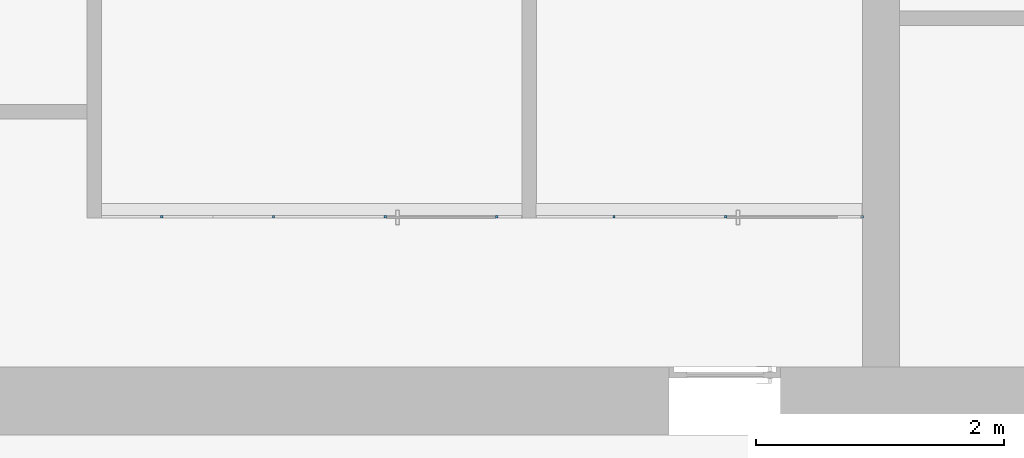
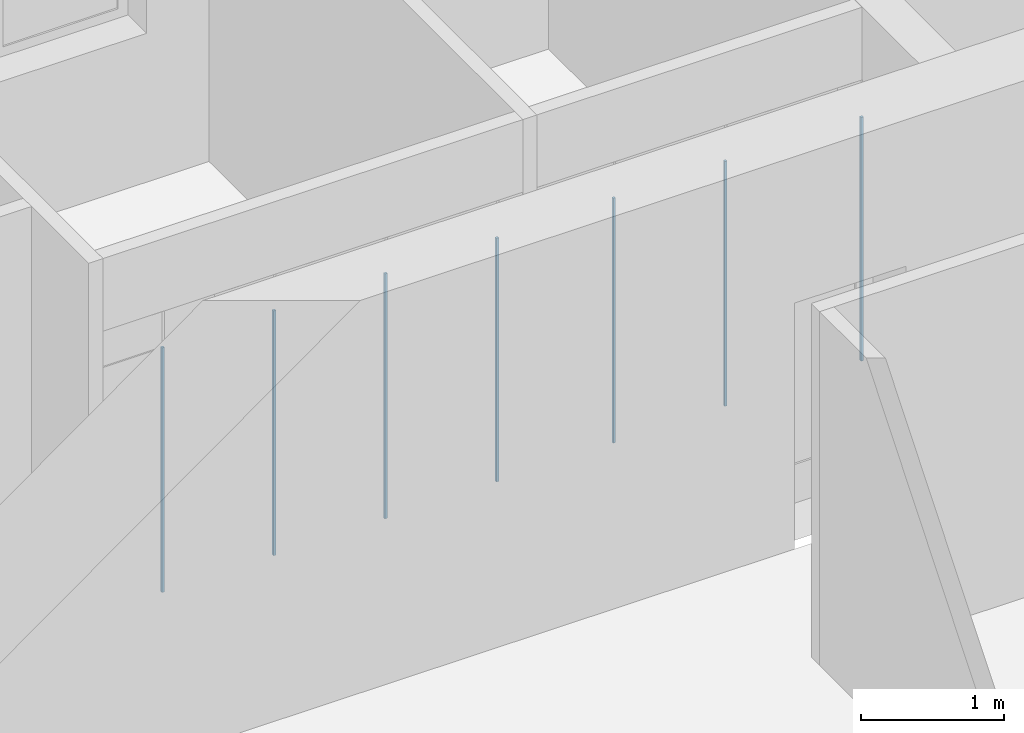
# One storey, part 3 of 49: 7 members, 2 elements without a shape of their own.
"""IFC2X3 building model written with IfcOpenShell, lengths in millimetres."""

from ifc_helpers import new_model, entity, si_unit, converted_unit, derived_unit, direction, frame, origin, origin_2d_with_axis, place, context, subcontext, project, spatial, rectangle, extrude, source, transform, mapped, material, type_object, type_shapes, element, aggregate, save


model = new_model("IFC2X3")

# Units and contexts
model_context = context("Model", 3, precision=0.01, world=origin(), true_north=direction((6.12303176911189e-17, 1.0)))
body_context = subcontext(model_context, "Body", "Model", "MODEL_VIEW")
ifc_project = project(units=[si_unit("LENGTHUNIT", "METRE", prefix="MILLI"), si_unit("AREAUNIT", "SQUARE_METRE"), si_unit("VOLUMEUNIT", "CUBIC_METRE"), converted_unit("PLANEANGLEUNIT", "DEGREE", entity("IfcRatioMeasure", 0.0174532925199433), si_unit("PLANEANGLEUNIT", "RADIAN"), dimensions=[0, 0, 0, 0, 0, 0, 0]), si_unit("MASSUNIT", "GRAM", prefix="KILO"), derived_unit("MASSDENSITYUNIT", [(si_unit("MASSUNIT", "GRAM", prefix="KILO"), 1), (si_unit("LENGTHUNIT", "METRE"), -3)]), si_unit("TIMEUNIT", "SECOND"), si_unit("FREQUENCYUNIT", "HERTZ"), si_unit("THERMODYNAMICTEMPERATUREUNIT", "DEGREE_CELSIUS"), derived_unit("THERMALTRANSMITTANCEUNIT", [(si_unit("MASSUNIT", "GRAM", prefix="KILO"), 1), (si_unit("THERMODYNAMICTEMPERATUREUNIT", "KELVIN"), -1), (si_unit("TIMEUNIT", "SECOND"), -3)]), derived_unit("VOLUMETRICFLOWRATEUNIT", [(si_unit("LENGTHUNIT", "METRE"), 3), (si_unit("TIMEUNIT", "SECOND"), -1)]), si_unit("ELECTRICCURRENTUNIT", "AMPERE"), si_unit("ELECTRICVOLTAGEUNIT", "VOLT"), si_unit("POWERUNIT", "WATT"), si_unit("FORCEUNIT", "NEWTON", prefix="KILO"), si_unit("ILLUMINANCEUNIT", "LUX"), si_unit("LUMINOUSFLUXUNIT", "LUMEN"), si_unit("LUMINOUSINTENSITYUNIT", "CANDELA"), derived_unit("USERDEFINED", [(si_unit("MASSUNIT", "GRAM", prefix="KILO"), -1), (si_unit("LENGTHUNIT", "METRE"), -2), (si_unit("TIMEUNIT", "SECOND"), 3), (si_unit("LUMINOUSFLUXUNIT", "LUMEN"), 1)]), derived_unit("LINEARVELOCITYUNIT", [(si_unit("LENGTHUNIT", "METRE"), 1), (si_unit("TIMEUNIT", "SECOND"), -1)]), si_unit("PRESSUREUNIT", "PASCAL"), derived_unit("USERDEFINED", [(si_unit("LENGTHUNIT", "METRE"), -2), (si_unit("MASSUNIT", "GRAM", prefix="KILO"), 1), (si_unit("TIMEUNIT", "SECOND"), -2)])], contexts=[model_context])

# Site, building, storey
site_placement = place(None, frame((-151.875543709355, 2715.0, 0.0)))
site = spatial("IfcSite", under=ifc_project, at=site_placement, Name="Surface", CompositionType="ELEMENT")
building_placement = place(site_placement, origin())
building = spatial("IfcBuilding", under=site, at=building_placement, CompositionType="ELEMENT")
storey_placement = place(building_placement, origin())
storey = spatial("IfcBuildingStorey", under=building, at=storey_placement, Name="1 korrus", CompositionType="ELEMENT", Elevation=3.0969999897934e-10)

# Curtain wall, members
curtain_wall_type_1 = type_object("IfcCurtainWallType", Name="Curtain Wall:Klaassein KLS-04", PredefinedType="NOTDEFINED")
curtain_wall_1_placement = place(storey_placement, origin())
curtain_wall_1 = element("IfcCurtainWall", 1, at=curtain_wall_1_placement, inside=storey, type_object=curtain_wall_type_1, Name="Curtain Wall:Klaassein KLS-04", ObjectType="Curtain Wall:Klaassein KLS-04")
ifc_material = material(Name="__Uks_hele tamm")
member_type_1 = type_object("IfcMemberType", Name="20 x 20mm", PredefinedType="MEMBER")
shared_shape_1 = source(origin(), body_context, "Body", "SweptSolid", [
    extrude(rectangle(XDim=20.0, YDim=20.0, at=origin_2d_with_axis()), frame((0.0, 0.0, -2090.0), z_axis=(0.0, 0.0, 1.0), x_axis=(0.0, -1.0, 0.0)), (0.0, 0.0, 1.0), 2090.0),
])
type_shapes(member_type_1, [shared_shape_1])
member_1_placement = place(storey_placement, frame((27745.0994792, 7770.0, 0.0), z_axis=(0.0, 0.0, -1.0), x_axis=(1.0, 0.0, 0.0)))
member_1 = element("IfcMember", 2, at=member_1_placement, type_object=member_type_1, material=ifc_material, Name="Rectangular Mullion:20 x 20mm", ObjectType="20 x 20mm", context=body_context, shape_type="MappedRepresentation", body=[
    mapped(shared_shape_1, transform((0.0, 0.0, 0.0), scale=1.0)),
])
member_2_placement = place(storey_placement, frame((26845.0994792, 7770.0, 0.0), z_axis=(0.0, 0.0, -1.0), x_axis=(1.0, 0.0, 0.0)))
member_2 = element("IfcMember", 3, at=member_2_placement, type_object=member_type_1, material=ifc_material, Name="Rectangular Mullion:20 x 20mm", ObjectType="20 x 20mm", context=body_context, shape_type="MappedRepresentation", body=[
    mapped(shared_shape_1, transform((0.0, 0.0, 0.0), scale=1.0)),
])

curtain_wall_type_2 = type_object("IfcCurtainWallType", Name="Curtain Wall:Klaassein KLS-03", PredefinedType="NOTDEFINED")
curtain_wall_2_placement = place(storey_placement, origin())
curtain_wall_2 = element("IfcCurtainWall", 4, at=curtain_wall_2_placement, inside=storey, type_object=curtain_wall_type_2, Name="Curtain Wall:Klaassein KLS-03", ObjectType="Curtain Wall:Klaassein KLS-03")
member_3_placement = place(storey_placement, frame((25001.2300720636, 7770.0, 0.0), z_axis=(0.0, 0.0, -1.0), x_axis=(1.0, 0.0, 0.0)))
member_3 = element("IfcMember", 5, at=member_3_placement, type_object=member_type_1, material=ifc_material, Name="Rectangular Mullion:20 x 20mm", ObjectType="20 x 20mm", context=body_context, shape_type="MappedRepresentation", body=[
    mapped(shared_shape_1, transform((0.0, 0.0, 0.0), scale=1.0)),
])
member_4_placement = place(storey_placement, frame((24101.2300720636, 7770.0, 0.0), z_axis=(0.0, 0.0, -1.0), x_axis=(1.0, 0.0, 0.0)))
member_4 = element("IfcMember", 6, at=member_4_placement, type_object=member_type_1, material=ifc_material, Name="Rectangular Mullion:20 x 20mm", ObjectType="20 x 20mm", context=body_context, shape_type="MappedRepresentation", body=[
    mapped(shared_shape_1, transform((0.0, 0.0, 0.0), scale=1.0)),
])
member_5_placement = place(storey_placement, frame((23201.2300720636, 7770.0, 0.0), z_axis=(0.0, 0.0, -1.0), x_axis=(1.0, 0.0, 0.0)))
member_5 = element("IfcMember", 7, at=member_5_placement, type_object=member_type_1, material=ifc_material, Name="Rectangular Mullion:20 x 20mm", ObjectType="20 x 20mm", context=body_context, shape_type="MappedRepresentation", body=[
    mapped(shared_shape_1, transform((0.0, 0.0, 0.0), scale=1.0)),
])

# Member
member_type_2 = type_object("IfcMemberType", Name="20 x 20mm", PredefinedType="MEMBER")
shared_shape_2 = source(origin(), body_context, "Body", "SweptSolid", [
    extrude(rectangle(XDim=20.0, YDim=20.0, at=origin_2d_with_axis()), frame((0.0, 0.0, -2080.0), z_axis=(0.0, 0.0, 1.0), x_axis=(0.0, -1.0, 0.0)), (0.0, 0.0, 1.0), 2080.0),
])
type_shapes(member_type_2, [shared_shape_2])
member_6_placement = place(storey_placement, frame((28845.0994792, 7770.0, 0.0), z_axis=(0.0, 0.0, -1.0), x_axis=(1.0, 0.0, 0.0)))
member_6 = element("IfcMember", 8, at=member_6_placement, type_object=member_type_2, material=ifc_material, Name="Rectangular Mullion:20 x 20mm", ObjectType="20 x 20mm", context=body_context, shape_type="MappedRepresentation", body=[
    mapped(shared_shape_2, transform((0.0, 0.0, 0.0), scale=1.0)),
])

aggregate(curtain_wall_1, [member_6, member_1, member_2])

member_type_3 = type_object("IfcMemberType", Name="20 x 20mm", PredefinedType="MEMBER")
shared_shape_3 = source(origin(), body_context, "Body", "SweptSolid", [
    extrude(rectangle(XDim=20.0, YDim=20.0, at=origin_2d_with_axis()), frame((0.0, 0.0, -2080.0), z_axis=(0.0, 0.0, 1.0), x_axis=(0.0, -1.0, 0.0)), (0.0, 0.0, 1.0), 2080.0),
])
type_shapes(member_type_3, [shared_shape_3])
member_7_placement = place(storey_placement, frame((25901.2300720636, 7770.0, 0.0), z_axis=(0.0, 0.0, -1.0), x_axis=(1.0, 0.0, 0.0)))
member_7 = element("IfcMember", 9, at=member_7_placement, type_object=member_type_3, material=ifc_material, Name="Rectangular Mullion:20 x 20mm", ObjectType="20 x 20mm", context=body_context, shape_type="MappedRepresentation", body=[
    mapped(shared_shape_3, transform((0.0, 0.0, 0.0), scale=1.0)),
])

aggregate(curtain_wall_2, [member_7, member_3, member_4, member_5])

save(model, "model.ifc")
